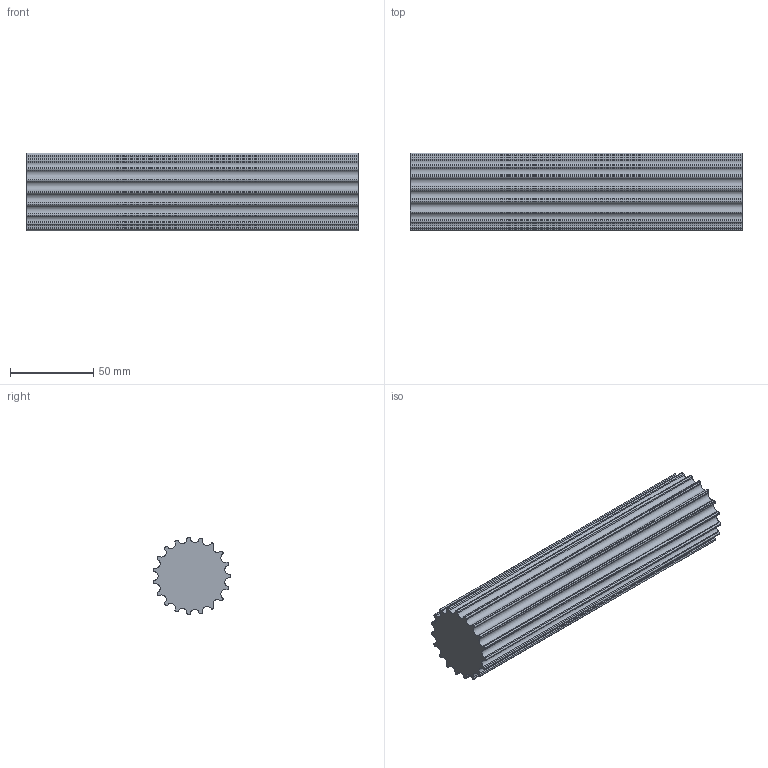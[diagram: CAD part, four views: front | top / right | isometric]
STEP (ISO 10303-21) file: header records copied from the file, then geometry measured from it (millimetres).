
FILE_DESCRIPTION( ( 'STEP AP203' ), '1' );
FILE_NAME( 'C:/Users/Stangenbergd/Desktop/17491901.stp', '2020-08-15T09:47:25', ( 'License CC BY-ND 4.0' ), ( 'CADENAS' ), ' ', 'PARTsolutions', ' ' );
FILE_SCHEMA( ( 'CONFIG_CONTROL_DESIGN' ) );
Length unit declared in the file: millimetre
Products named in the file (1): _17491901
Bounding box: 200 x 46.78 x 46.93 mm (x, y, z)
Volume: 291678.6 mm3; surface area: 43556.6 mm2
Topology: 1 solids, 1 shells, 116 faces, 342 edges, 228 vertices
Faces by surface type: cylinder 76, plane 40
Entity records: 3982 total; most frequent: DIRECTION 728, CARTESIAN_POINT 687, ORIENTED_EDGE 684, EDGE_CURVE 342, AXIS2_PLACEMENT_3D 269, VERTEX_POINT 228, LINE 190, VECTOR 190
